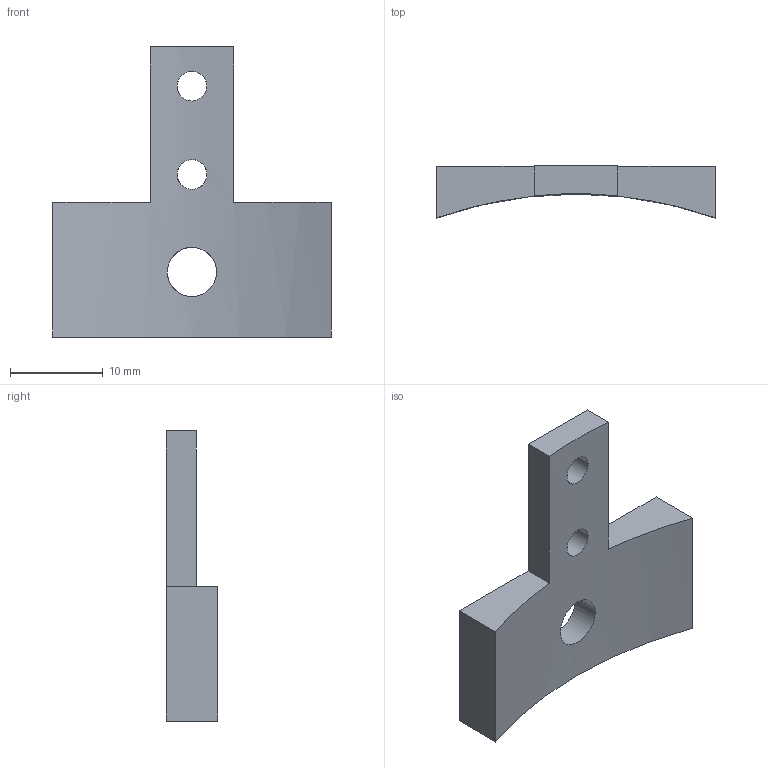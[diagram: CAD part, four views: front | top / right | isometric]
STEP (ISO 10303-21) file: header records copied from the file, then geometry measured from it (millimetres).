
FILE_DESCRIPTION(/* description */ (''),/* implementation_level */ '2;1');
FILE_NAME(/* name */ 'base-limit-switch.step',/* time_stamp */ '2026-06-03T23:48:18+01:00',/* author */ (''),/* organization */ (''),/* preprocessor_version */ 'ST-DEVELOPER v20.1',/* originating_system */ 'Autodesk Translation Framework v15.8.0.0',/* authorisation */ '');
FILE_SCHEMA (('AUTOMOTIVE_DESIGN { 1 0 10303 214 3 1 1 }'));
Length unit declared in the file: millimetre
Products named in the file (1): base-limit-switch
Bounding box: 30 x 5.58 x 31.22 mm (x, y, z)
Volume: 2022.7 mm3; surface area: 1715.4 mm2
Topology: 1 solids, 1 shells, 13 faces, 33 edges, 22 vertices
Faces by surface type: plane 9, cylinder 4
Full cylindrical faces by diameter (mm): 3.2 x2, 5.3 x1
Entity records: 532 total; most frequent: CARTESIAN_POINT 168, ORIENTED_EDGE 66, DIRECTION 65, EDGE_CURVE 33, LINE 23, VECTOR 23, VERTEX_POINT 22, AXIS2_PLACEMENT_3D 21
